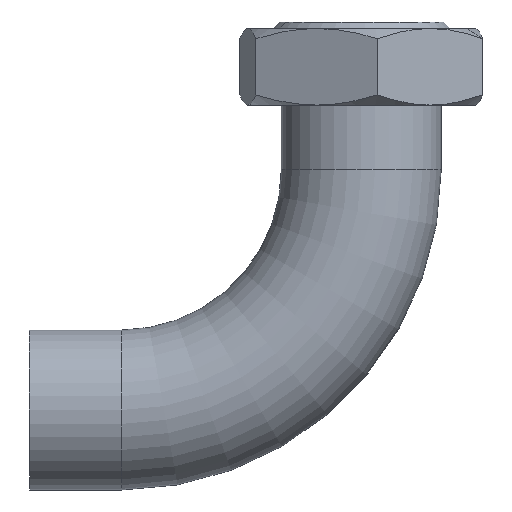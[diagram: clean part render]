
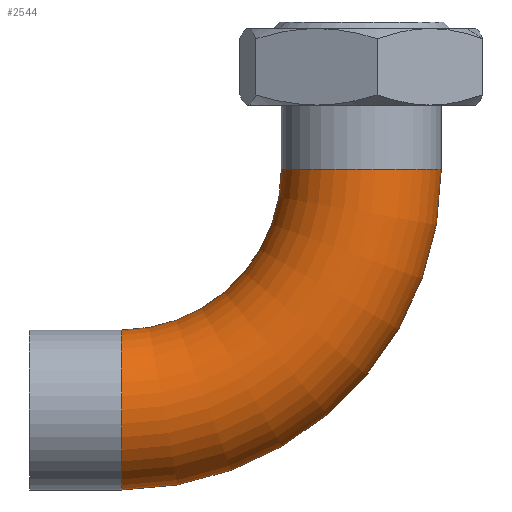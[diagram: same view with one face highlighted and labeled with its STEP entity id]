
A CAD part, front view. The second image highlights one B-rep face of the part: STEP entity #2544.
In plain terms, the highlighted toroidal (fillet/blend) face has major radius 95.532 mm and minor radius 31.75 mm.
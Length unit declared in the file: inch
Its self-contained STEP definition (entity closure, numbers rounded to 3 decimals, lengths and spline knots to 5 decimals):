
#5 = CARTESIAN_POINT ( 'NONE',  ( -3.74574, 0., -5.187 ) ) ;
#63 = AXIS2_PLACEMENT_3D ( 'NONE', #5, #880, #3027 ) ;
#145 = DIRECTION ( 'NONE',  ( 1., 0., 0. ) ) ;
#161 = DIRECTION ( 'NONE',  ( 0., 1., 0. ) ) ;
#215 = CIRCLE ( 'NONE', #1252, 5.01112 ) ;
#248 = VERTEX_POINT ( 'NONE', #1939 ) ;
#379 = AXIS2_PLACEMENT_3D ( 'NONE', #2349, #1598, #145 ) ;
#427 = VERTEX_POINT ( 'NONE', #1266 ) ;
#709 = CARTESIAN_POINT ( 'NONE',  ( -3.74062, 0., -6.43699 ) ) ;
#880 = DIRECTION ( 'NONE',  ( 1., 0., 0.004 ) ) ;
#972 = AXIS2_PLACEMENT_3D ( 'NONE', #1363, #1916, #3006 ) ;
#1252 = AXIS2_PLACEMENT_3D ( 'NONE', #2365, #1800, #2670 ) ;
#1266 = CARTESIAN_POINT ( 'NONE',  ( -3.75085, 0., -3.93701 ) ) ;
#1357 = CIRCLE ( 'NONE', #379, 1.25 ) ;
#1363 = CARTESIAN_POINT ( 'NONE',  ( -3.76112, 0., -1.42591 ) ) ;
#1545 = EDGE_CURVE ( 'NONE', #427, #3103, #1727, .T. ) ;
#1598 = DIRECTION ( 'NONE',  ( 0., 0., 1. ) ) ;
#1727 = CIRCLE ( 'NONE', #63, 1.25 ) ;
#1800 = DIRECTION ( 'NONE',  ( 0., 1., 0. ) ) ;
#1916 = DIRECTION ( 'NONE',  ( 0., 1., 0. ) ) ;
#1932 = CIRCLE ( 'NONE', #972, 2.51112 ) ;
#1939 = CARTESIAN_POINT ( 'NONE',  ( 1.25, 0., -1.42591 ) ) ;
#2325 = ORIENTED_EDGE ( 'NONE', *, *, #2469, .F. ) ;
#2330 = TOROIDAL_SURFACE ( 'NONE', #2776, 3.76112, 1.25 ) ;
#2349 = CARTESIAN_POINT ( 'NONE',  ( 0., 0., -1.42591 ) ) ;
#2365 = CARTESIAN_POINT ( 'NONE',  ( -3.76112, 0., -1.42591 ) ) ;
#2469 = EDGE_CURVE ( 'NONE', #248, #3103, #215, .T. ) ;
#2480 = EDGE_LOOP ( 'NONE', ( #2325, #2533, #3455, #2952 ) ) ;
#2533 = ORIENTED_EDGE ( 'NONE', *, *, #2614, .F. ) ;
#2544 = ADVANCED_FACE ( 'NONE', ( #3217 ), #2330, .T. ) ;
#2614 = EDGE_CURVE ( 'NONE', #2697, #248, #1357, .T. ) ;
#2670 = DIRECTION ( 'NONE',  ( 0., 0., 1. ) ) ;
#2697 = VERTEX_POINT ( 'NONE', #2973 ) ;
#2776 = AXIS2_PLACEMENT_3D ( 'NONE', #2901, #161, #3480 ) ;
#2901 = CARTESIAN_POINT ( 'NONE',  ( -3.76112, 0., -1.42591 ) ) ;
#2952 = ORIENTED_EDGE ( 'NONE', *, *, #1545, .T. ) ;
#2973 = CARTESIAN_POINT ( 'NONE',  ( -1.25, 0., -1.42591 ) ) ;
#2980 = EDGE_CURVE ( 'NONE', #2697, #427, #1932, .T. ) ;
#3006 = DIRECTION ( 'NONE',  ( 0., 0., 1. ) ) ;
#3027 = DIRECTION ( 'NONE',  ( 0.004, 0., -1. ) ) ;
#3103 = VERTEX_POINT ( 'NONE', #709 ) ;
#3217 = FACE_OUTER_BOUND ( 'NONE', #2480, .T. ) ;
#3455 = ORIENTED_EDGE ( 'NONE', *, *, #2980, .T. ) ;
#3480 = DIRECTION ( 'NONE',  ( 0., 0., 1. ) ) ;
